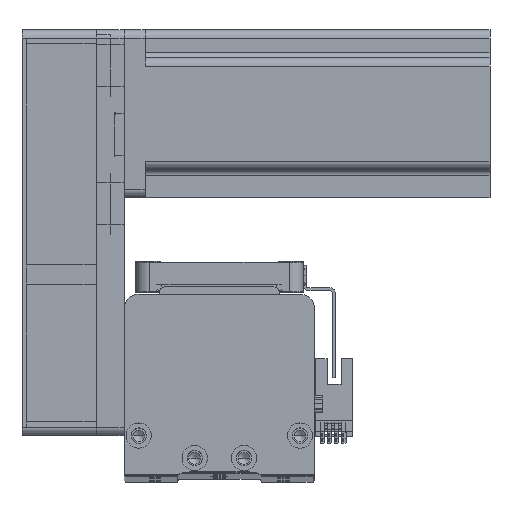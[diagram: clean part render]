
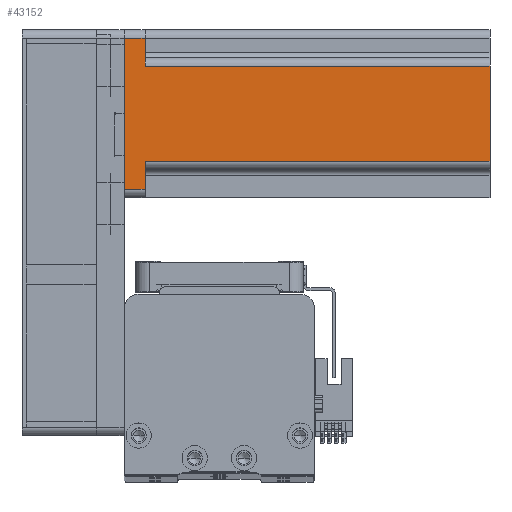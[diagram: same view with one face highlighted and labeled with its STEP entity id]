
A CAD part, top view. The second image highlights one B-rep face of the part: STEP entity #43152.
In plain terms, the highlighted planar face has unit normal (0, 0, 1) as drawn and (0, 1, 0) by its records, which use the part's own axes.
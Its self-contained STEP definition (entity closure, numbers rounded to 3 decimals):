
#326 = CARTESIAN_POINT ( 'NONE',  ( 27., 30., 0. ) ) ;
#672 = DIRECTION ( 'NONE',  ( 0., -1., 0. ) ) ;
#792 = VECTOR ( 'NONE', #8538, 1000. ) ;
#1685 = LINE ( 'NONE', #30792, #22470 ) ;
#2390 = AXIS2_PLACEMENT_3D ( 'NONE', #24081, #672, #28011 ) ;
#2577 = CARTESIAN_POINT ( 'NONE',  ( -27., 30., 0. ) ) ;
#2956 = VERTEX_POINT ( 'NONE', #23326 ) ;
#3539 = LINE ( 'NONE', #20444, #21913 ) ;
#3595 = CARTESIAN_POINT ( 'NONE',  ( -17., 30., 130.7 ) ) ;
#4367 = EDGE_CURVE ( 'NONE', #39063, #4480, #1685, .T. ) ;
#4480 = VERTEX_POINT ( 'NONE', #326 ) ;
#4598 = CARTESIAN_POINT ( 'NONE',  ( 20., 30., 7.5 ) ) ;
#4893 = EDGE_LOOP ( 'NONE', ( #7411, #17996, #38765, #22775, #37854, #15326, #12422, #31353 ) ) ;
#6905 = EDGE_CURVE ( 'NONE', #35474, #2956, #19362, .T. ) ;
#7411 = ORIENTED_EDGE ( 'NONE', *, *, #29281, .T. ) ;
#8538 = DIRECTION ( 'NONE',  ( -1., 0., 0. ) ) ;
#8671 = CARTESIAN_POINT ( 'NONE',  ( 17., 30., 130.7 ) ) ;
#8910 = DIRECTION ( 'NONE',  ( 0., 0., 1. ) ) ;
#10806 = VERTEX_POINT ( 'NONE', #48383 ) ;
#12422 = ORIENTED_EDGE ( 'NONE', *, *, #23440, .T. ) ;
#12614 = DIRECTION ( 'NONE',  ( 0., 0., -1. ) ) ;
#15210 = VECTOR ( 'NONE', #42808, 1000. ) ;
#15326 = ORIENTED_EDGE ( 'NONE', *, *, #4367, .T. ) ;
#16512 = DIRECTION ( 'NONE',  ( -1., 0., 0. ) ) ;
#17655 = DIRECTION ( 'NONE',  ( 0., 0., 1. ) ) ;
#17996 = ORIENTED_EDGE ( 'NONE', *, *, #39481, .T. ) ;
#18655 = DIRECTION ( 'NONE',  ( 0., 0., -1. ) ) ;
#19323 = CARTESIAN_POINT ( 'NONE',  ( -17., 30., 7.5 ) ) ;
#19362 = LINE ( 'NONE', #44950, #28526 ) ;
#20444 = CARTESIAN_POINT ( 'NONE',  ( 30., 30., 0. ) ) ;
#20779 = CARTESIAN_POINT ( 'NONE',  ( 30., 30., 130.7 ) ) ;
#21330 = VERTEX_POINT ( 'NONE', #19323 ) ;
#21913 = VECTOR ( 'NONE', #16512, 1000. ) ;
#22470 = VECTOR ( 'NONE', #18655, 1000. ) ;
#22775 = ORIENTED_EDGE ( 'NONE', *, *, #38570, .T. ) ;
#22800 = LINE ( 'NONE', #4598, #792 ) ;
#23056 = CARTESIAN_POINT ( 'NONE',  ( 17., 30., 130.7 ) ) ;
#23326 = CARTESIAN_POINT ( 'NONE',  ( -27., 30., 7.5 ) ) ;
#23440 = EDGE_CURVE ( 'NONE', #4480, #35474, #3539, .T. ) ;
#23458 = EDGE_CURVE ( 'NONE', #38373, #37975, #34107, .T. ) ;
#23911 = PLANE ( 'NONE',  #2390 ) ;
#24081 = CARTESIAN_POINT ( 'NONE',  ( 30., 30., 130.7 ) ) ;
#25617 = LINE ( 'NONE', #38879, #15210 ) ;
#28011 = DIRECTION ( 'NONE',  ( 1., 0., 0. ) ) ;
#28526 = VECTOR ( 'NONE', #17655, 1000. ) ;
#28712 = VECTOR ( 'NONE', #8910, 1000. ) ;
#29281 = EDGE_CURVE ( 'NONE', #2956, #21330, #25617, .T. ) ;
#29661 = CARTESIAN_POINT ( 'NONE',  ( 27., 30., 7.5 ) ) ;
#30059 = LINE ( 'NONE', #8671, #36702 ) ;
#30792 = CARTESIAN_POINT ( 'NONE',  ( 27., 30., 130.7 ) ) ;
#31353 = ORIENTED_EDGE ( 'NONE', *, *, #6905, .T. ) ;
#32326 = CARTESIAN_POINT ( 'NONE',  ( -17., 30., 130.7 ) ) ;
#32595 = DIRECTION ( 'NONE',  ( -1., 0., 0. ) ) ;
#34107 = LINE ( 'NONE', #20779, #44454 ) ;
#35474 = VERTEX_POINT ( 'NONE', #2577 ) ;
#36619 = LINE ( 'NONE', #32326, #28712 ) ;
#36702 = VECTOR ( 'NONE', #12614, 1000. ) ;
#37854 = ORIENTED_EDGE ( 'NONE', *, *, #48170, .F. ) ;
#37975 = VERTEX_POINT ( 'NONE', #3595 ) ;
#38373 = VERTEX_POINT ( 'NONE', #23056 ) ;
#38570 = EDGE_CURVE ( 'NONE', #38373, #10806, #30059, .T. ) ;
#38765 = ORIENTED_EDGE ( 'NONE', *, *, #23458, .F. ) ;
#38879 = CARTESIAN_POINT ( 'NONE',  ( -20., 30., 7.5 ) ) ;
#39063 = VERTEX_POINT ( 'NONE', #29661 ) ;
#39481 = EDGE_CURVE ( 'NONE', #21330, #37975, #36619, .T. ) ;
#40429 = FACE_OUTER_BOUND ( 'NONE', #4893, .T. ) ;
#42808 = DIRECTION ( 'NONE',  ( 1., 0., 0. ) ) ;
#43152 = ADVANCED_FACE ( 'NONE', ( #40429 ), #23911, .F. ) ;
#44454 = VECTOR ( 'NONE', #32595, 1000. ) ;
#44950 = CARTESIAN_POINT ( 'NONE',  ( -27., 30., 130.7 ) ) ;
#48170 = EDGE_CURVE ( 'NONE', #39063, #10806, #22800, .T. ) ;
#48383 = CARTESIAN_POINT ( 'NONE',  ( 17., 30., 7.5 ) ) ;
